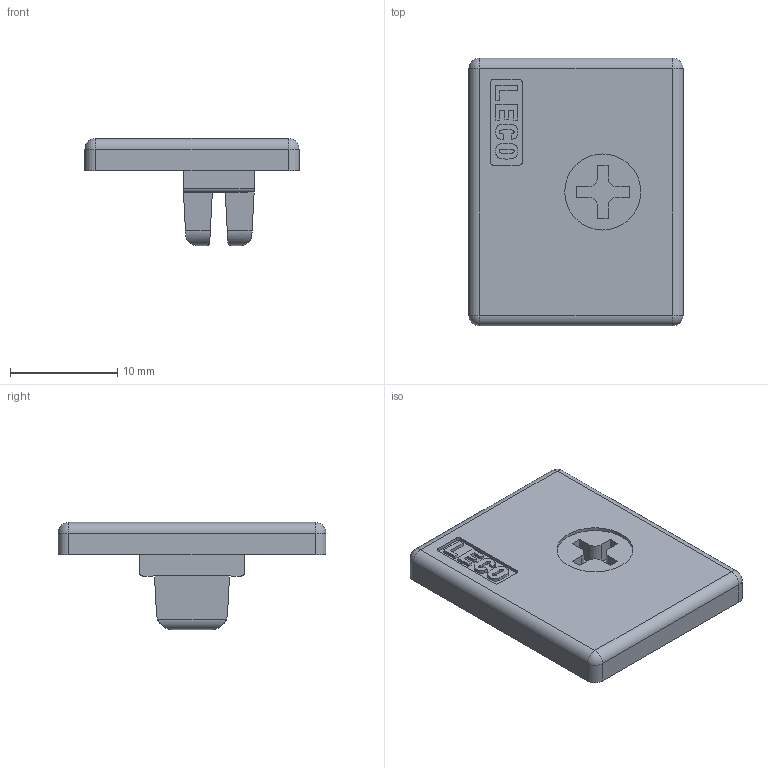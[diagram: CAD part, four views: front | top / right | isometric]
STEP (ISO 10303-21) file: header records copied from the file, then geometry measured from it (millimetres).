
FILE_DESCRIPTION(('STEP AP214'),'1');
FILE_NAME('E205.stp','2018-07-24T10:09:07',(' '),(' '),'Spatial InterOp 3D',' ',' ');
FILE_SCHEMA(('automotive_design'));
Length unit declared in the file: millimetre
Products named in the file (1): E205
Bounding box: 20 x 25 x 10 mm (x, y, z)
Volume: 1476.9 mm3; surface area: 1599.4 mm2
Topology: 1 solids, 1 shells, 133 faces, 351 edges, 226 vertices
Faces by surface type: plane 70, cylinder 59, sphere 4
Full cylindrical faces by diameter (mm): 7.1 x1
Entity records: 5198 total; most frequent: CARTESIAN_POINT 762, DIRECTION 716, ORIENTED_EDGE 692, EDGE_CURVE 346, AXIS2_PLACEMENT_3D 244, LINE 228, VECTOR 228, VERTEX_POINT 226
